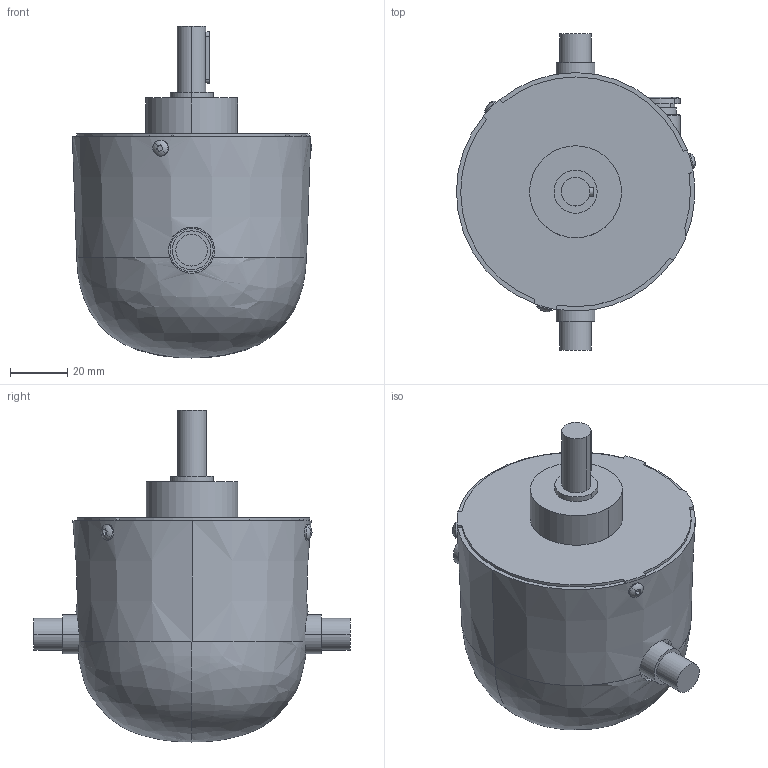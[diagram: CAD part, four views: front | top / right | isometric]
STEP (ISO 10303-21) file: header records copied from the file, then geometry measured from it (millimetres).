
FILE_DESCRIPTION (( 'STEP AP214' ), '1' );
FILE_NAME ('IRB365_1.5-1300_OmniCore_rev00_DELTA_UNIT_2_CAD.step', '2025-09-09T11:52:10', ( '' ), ( '' ), 'SwSTEP 2.0', 'SolidWorks 2024', '' );
FILE_SCHEMA (( 'AUTOMOTIVE_DESIGN' ));
Length unit declared in the file: millimetre
Products named in the file (1): IRB365_1.5-1300_OmniCore_rev00_DELTA_UNIT_2_CAD
Bounding box: 83.23 x 110 x 115.5 mm (x, y, z)
Volume: 282878.9 mm3; surface area: 55082.2 mm2
Topology: 1 solids, 1 shells, 280 faces, 637 edges, 380 vertices
Faces by surface type: cylinder 119, plane 80, cone 66, bspline 9, sphere 6
Entity records: 12784 total; most frequent: CARTESIAN_POINT 3478, DIRECTION 1344, ORIENTED_EDGE 1266, EDGE_CURVE 633, AXIS2_PLACEMENT_3D 548, VERTEX_POINT 380, EDGE_LOOP 315, UNCERTAINTY_MEASURE_WITH_UNIT 282
